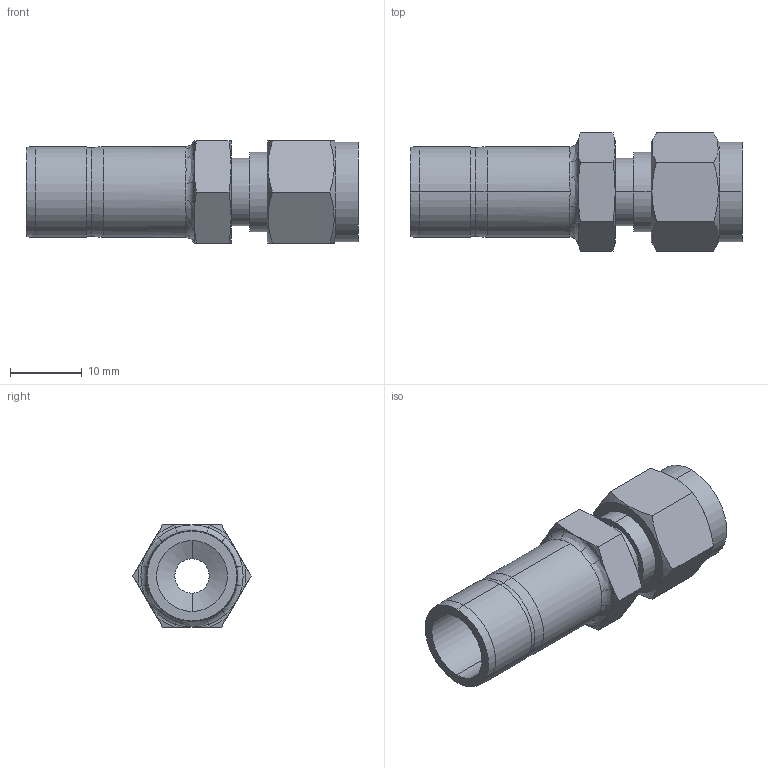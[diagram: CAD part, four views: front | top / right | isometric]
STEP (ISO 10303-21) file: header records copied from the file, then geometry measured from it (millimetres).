
FILE_DESCRIPTION (( 'STEP AP203' ), '1' );
FILE_NAME ('DRE04-08 SS.STEP', '2009-09-08T08:37:34', ( ' ' ), ( '' ), 'SwSTEP 2.0', 'SolidWorks 2008', '' );
FILE_SCHEMA (( 'CONFIG_CONTROL_DESIGN' ));
Length unit declared in the file: millimetre
Products named in the file (1): DRE04-08 SS
Bounding box: 46.4 x 16.5 x 14.29 mm (x, y, z)
Volume: 3967.7 mm3; surface area: 3612.4 mm2
Topology: 1 solids, 1 shells, 78 faces, 176 edges, 104 vertices
Faces by surface type: cone 24, plane 24, cylinder 18, bspline 6, torus 6
Entity records: 2589 total; most frequent: CARTESIAN_POINT 833, ORIENTED_EDGE 352, DIRECTION 348, EDGE_CURVE 176, AXIS2_PLACEMENT_3D 147, VERTEX_POINT 104, EDGE_LOOP 84, FACE_OUTER_BOUND 78
